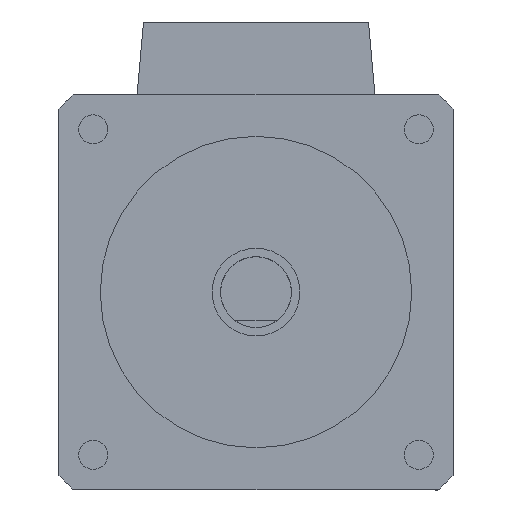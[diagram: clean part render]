
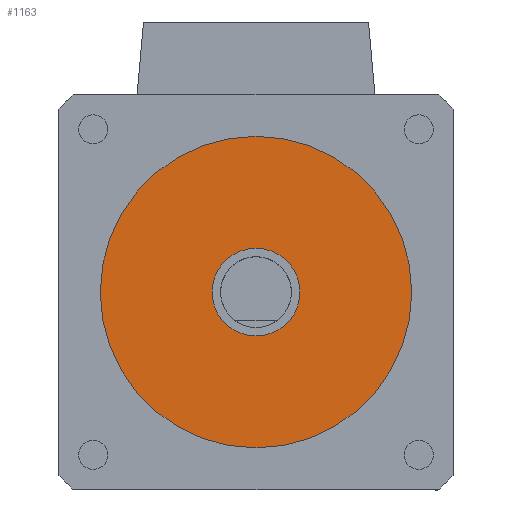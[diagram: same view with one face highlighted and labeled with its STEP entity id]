
A CAD part, front view. The second image highlights one B-rep face of the part: STEP entity #1163.
In plain terms, the highlighted planar face has unit normal (0, -1, 0) as drawn and (0, 1, 0) by its records, which use the part's own axes.
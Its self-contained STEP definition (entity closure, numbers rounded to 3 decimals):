
#18 = ORIENTED_EDGE ( 'NONE', *, *, #11859, .F. ) ;
#261 = AXIS2_PLACEMENT_3D ( 'NONE', #13971, #7816, #1673 ) ;
#1163 = ADVANCED_FACE ( 'NONE', ( #9056, #11498 ), #13829, .T. ) ;
#1172 = CARTESIAN_POINT ( 'NONE',  ( 0., 8.5, 0. ) ) ;
#1454 = DIRECTION ( 'NONE',  ( 0., 1., 0. ) ) ;
#1517 = DIRECTION ( 'NONE',  ( 0., 1., 0. ) ) ;
#1673 = DIRECTION ( 'NONE',  ( 0., 0., 1. ) ) ;
#2294 = DIRECTION ( 'NONE',  ( 0., 1., 0. ) ) ;
#3242 = ORIENTED_EDGE ( 'NONE', *, *, #12463, .F. ) ;
#3533 = CARTESIAN_POINT ( 'NONE',  ( 0., 8.5, 11. ) ) ;
#3550 = ORIENTED_EDGE ( 'NONE', *, *, #6073, .T. ) ;
#5015 = AXIS2_PLACEMENT_3D ( 'NONE', #7593, #1454, #5330 ) ;
#5316 = DIRECTION ( 'NONE',  ( 0., 0., 1. ) ) ;
#5330 = DIRECTION ( 'NONE',  ( 0., 0., 1. ) ) ;
#5572 = DIRECTION ( 'NONE',  ( 0., 0., 1. ) ) ;
#5948 = CIRCLE ( 'NONE', #261, 11. ) ;
#6073 = EDGE_CURVE ( 'NONE', #10315, #10647, #5948, .T. ) ;
#6838 = AXIS2_PLACEMENT_3D ( 'NONE', #13008, #8243, #5572 ) ;
#7130 = EDGE_CURVE ( 'NONE', #10647, #10315, #15294, .T. ) ;
#7307 = DIRECTION ( 'NONE',  ( 0., 0., 1. ) ) ;
#7593 = CARTESIAN_POINT ( 'NONE',  ( 0., 8.5, 0. ) ) ;
#7816 = DIRECTION ( 'NONE',  ( 0., 1., 0. ) ) ;
#7887 = CIRCLE ( 'NONE', #10229, 3.1 ) ;
#8019 = EDGE_LOOP ( 'NONE', ( #3242, #18 ) ) ;
#8243 = DIRECTION ( 'NONE',  ( 0., 1., 0. ) ) ;
#9056 = FACE_BOUND ( 'NONE', #8019, .T. ) ;
#9929 = CIRCLE ( 'NONE', #6838, 3.1 ) ;
#10229 = AXIS2_PLACEMENT_3D ( 'NONE', #1172, #2294, #7307 ) ;
#10315 = VERTEX_POINT ( 'NONE', #3533 ) ;
#10357 = AXIS2_PLACEMENT_3D ( 'NONE', #12607, #1517, #5316 ) ;
#10647 = VERTEX_POINT ( 'NONE', #12744 ) ;
#11114 = VERTEX_POINT ( 'NONE', #13686 ) ;
#11498 = FACE_OUTER_BOUND ( 'NONE', #14979, .T. ) ;
#11776 = VERTEX_POINT ( 'NONE', #15045 ) ;
#11859 = EDGE_CURVE ( 'NONE', #11114, #11776, #9929, .T. ) ;
#12463 = EDGE_CURVE ( 'NONE', #11776, #11114, #7887, .T. ) ;
#12607 = CARTESIAN_POINT ( 'NONE',  ( 0., 8.5, 0. ) ) ;
#12744 = CARTESIAN_POINT ( 'NONE',  ( 0., 8.5, -11. ) ) ;
#13008 = CARTESIAN_POINT ( 'NONE',  ( 0., 8.5, 0. ) ) ;
#13686 = CARTESIAN_POINT ( 'NONE',  ( 0., 8.5, -3.1 ) ) ;
#13829 = PLANE ( 'NONE',  #5015 ) ;
#13889 = ORIENTED_EDGE ( 'NONE', *, *, #7130, .T. ) ;
#13971 = CARTESIAN_POINT ( 'NONE',  ( 0., 8.5, 0. ) ) ;
#14979 = EDGE_LOOP ( 'NONE', ( #13889, #3550 ) ) ;
#15045 = CARTESIAN_POINT ( 'NONE',  ( 0., 8.5, 3.1 ) ) ;
#15294 = CIRCLE ( 'NONE', #10357, 11. ) ;
